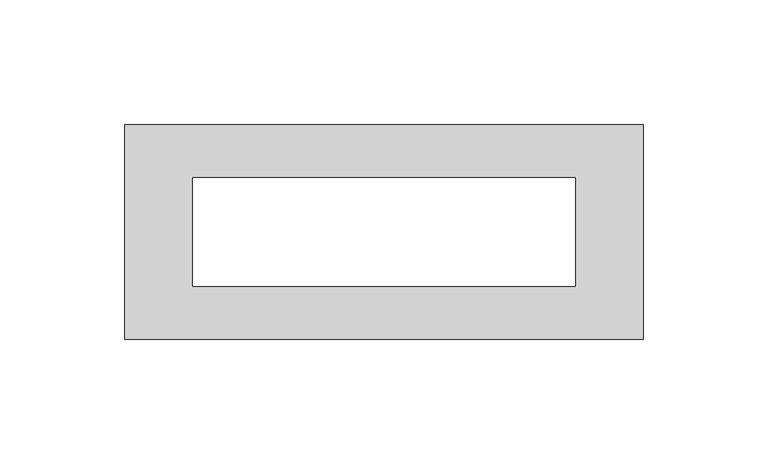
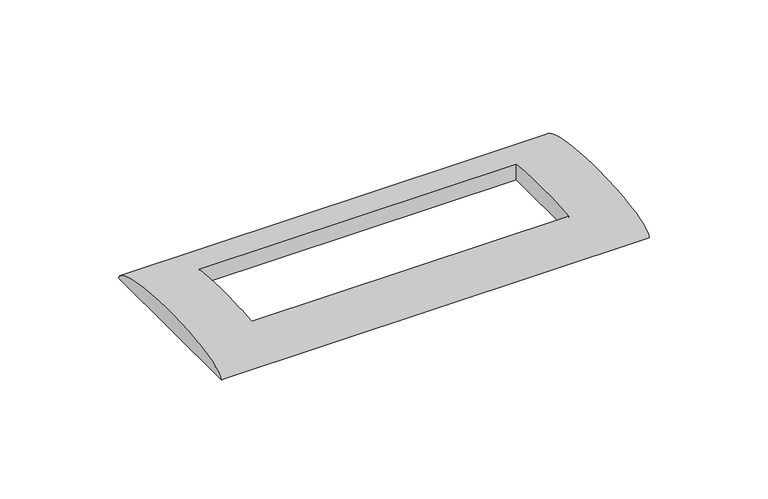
"""IFC4 building model written with IfcOpenShell, lengths in millimetres: proxy geometry, 00-Placca : Placca 7 moduli in linea."""

from ifc_helpers import new_model, si_unit, point, frame, origin, place, context, project, spatial, ellipse_curve, trimmed, source, transform, mapped, element, save
from ifc_brep_helpers import plane_surface, extruded_surface, advanced_brep


def electrical_fixtures_cee1766c(model_context):
    return source(origin(), model_context, "Body", "AdvancedBrep", [
        advanced_brep(
        [(104.0, -43.0, 2.0), (104.0, 43.0, 2.0), (-104.0, -43.0, 2.0), (-104.0, 43.0, 2.0), (77.0, -22.0, 2.0), (77.0, 22.0, 2.0), (-77.0, 22.0, 2.0), (-77.0, -22.0, 2.0), (77.0, -22.0, 9.7328641), (77.0, 22.0, 9.7328641), (-77.0, 22.0, 9.7328641), (-77.0, -22.0, 9.7328641)],
        [
            (0, 1),
            (1, 0, ellipse_curve(frame((104.0, 0.0, 2.0), z_axis=(1.0, 0.0, 0.0), x_axis=(0.0, 1.0, 0.0)), 43.0, 9.0)),
            (2, 3, ellipse_curve(frame((-104.0, 0.0, 2.0), z_axis=(-1.0, 0.0, 0.0), x_axis=(0.0, 1.0, 0.0)), 43.0, 9.0)),
            (3, 2),
            (0, 2),
            (3, 1),
            (4, 5),
            (5, 6),
            (6, 7),
            (7, 4),
            (4, 8),
            (8, 9, ellipse_curve(frame((77.0, 0.0, 2.0), z_axis=(-1.0, 0.0, 0.0), x_axis=(0.0, 1.0, 0.0)), 43.0, 9.0)),
            (9, 5),
            (9, 10),
            (10, 6),
            (10, 11, ellipse_curve(frame((-77.0, 0.0, 2.0), z_axis=(1.0, 0.0, 0.0), x_axis=(0.0, 1.0, 0.0)), 43.0, 9.0)),
            (11, 7),
            (11, 8),
        ],
        [
            plane_surface(frame((104.0, 43.0, 2.0), z_axis=(1.0, 0.0, 0.0), x_axis=(0.0, 1.0, 0.0))),
            plane_surface(frame((-104.0, 43.0, 2.0), z_axis=(-1.0, 0.0, 0.0), x_axis=(0.0, -1.0, 0.0))),
            plane_surface(frame((104.0, -43.0, 2.0), z_axis=(0.0, 0.0, -1.0), x_axis=(-1.0, 0.0, 0.0))),
            plane_surface(frame((77.0, -22.0, 13.0), z_axis=(-1.0, 0.0, 0.0), x_axis=(0.0, 0.0, -1.0))),
            plane_surface(frame((77.0, 22.0, 13.0), z_axis=(0.0, -1.0, 0.0), x_axis=(0.0, 0.0, -1.0))),
            plane_surface(frame((-77.0, 22.0, 13.0), z_axis=(1.0, 0.0, 0.0), x_axis=(0.0, 0.0, -1.0))),
            plane_surface(frame((-77.0, -22.0, 13.0), z_axis=(0.0, 1.0, 0.0), x_axis=(0.0, 0.0, -1.0))),
            extruded_surface(trimmed(ellipse_curve(frame((-312.0, 0.0, 2.0), z_axis=(1.0, 0.0, 0.0), x_axis=(0.0, 1.0, 0.0)), 43.0, 9.0), [point((-312.0, 43.0, 2.0))], [point((-312.0, -43.0, 2.0))], True, "CARTESIAN"), (208.0, 0.0, 0.0), 208.0),
        ],
        [
            (0, [[1, 2]]),
            (1, [[3, 4]]),
            (2, [[-1, 5, -4, 6], [7, 8, 9, 10]]),
            (3, [[11, 12, 13, -7]]),
            (4, [[-13, 14, 15, -8]]),
            (5, [[-15, 16, 17, -9]]),
            (6, [[-11, -10, -17, 18]]),
            (7, [[-2, -6, -3, -5], [-12, -18, -16, -14]]),
        ],
    ),
    ])


if __name__ == "__main__":
    model = new_model("IFC4")
    model_context = context("Model", 3, world=origin())
    ifc_project = project(units=[si_unit("LENGTHUNIT", "METRE", prefix="MILLI")], contexts=[model_context])
    site = spatial("IfcSite", under=ifc_project)
    building = spatial("IfcBuilding", under=site)
    placement = place(None, origin())
    electrical_fixtures_shape = electrical_fixtures_cee1766c(model_context)
    element("IfcBuildingElementProxy", 1, Name="00-Placca : Placca 7 moduli in linea", ObjectType="00-Placca : Placca 7 moduli in linea", at=placement, inside=building, context=model_context, shape_type="MappedRepresentation", body=[
        mapped(electrical_fixtures_shape, transform((0.0, 0.0, 0.0), x_axis=(1.0, 0.0, 0.0), y_axis=(0.0, 1.0, 0.0), z_axis=(0.0, 0.0, 1.0))),
    ])
    save(model, "model.ifc")
